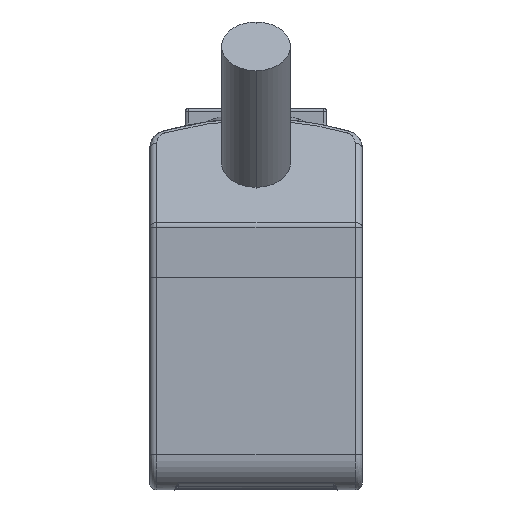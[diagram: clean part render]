
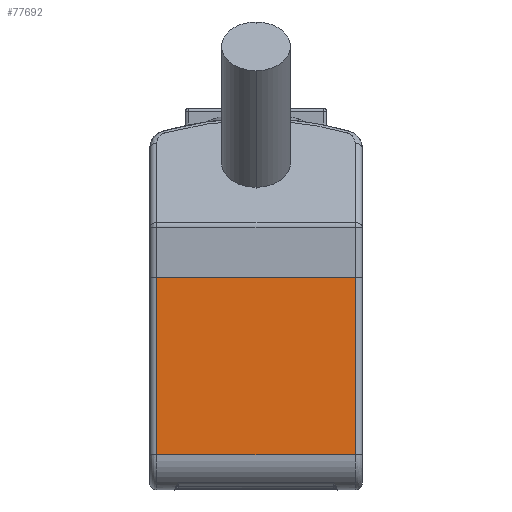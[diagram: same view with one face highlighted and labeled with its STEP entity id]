
A CAD part, left-side view. The second image highlights one B-rep face of the part: STEP entity #77692.
In plain terms, the highlighted planar face has unit normal (-1, 0, 0) as drawn and (0, 1, 0) by its records, which use the part's own axes.
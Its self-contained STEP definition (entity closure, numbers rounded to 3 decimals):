
#3837 = LINE ( 'NONE', #78246, #47231 ) ;
#5856 = EDGE_CURVE ( 'NONE', #18219, #50644, #66671, .T. ) ;
#8248 = CARTESIAN_POINT ( 'NONE',  ( -8.5, 15.75, 5.6 ) ) ;
#8668 = DIRECTION ( 'NONE',  ( 0., -1., 0. ) ) ;
#9359 = CARTESIAN_POINT ( 'NONE',  ( 1.5, 15.75, 5.6 ) ) ;
#9948 = DIRECTION ( 'NONE',  ( 0., 0., -1. ) ) ;
#11045 = LINE ( 'NONE', #38615, #25959 ) ;
#12868 = CARTESIAN_POINT ( 'NONE',  ( 1.5, 15.75, -5.6 ) ) ;
#14071 = ORIENTED_EDGE ( 'NONE', *, *, #5856, .T. ) ;
#18219 = VERTEX_POINT ( 'NONE', #60471 ) ;
#23106 = FACE_OUTER_BOUND ( 'NONE', #80226, .T. ) ;
#25959 = VECTOR ( 'NONE', #58736, 1000. ) ;
#26848 = DIRECTION ( 'NONE',  ( 1., 0., 0. ) ) ;
#31298 = CARTESIAN_POINT ( 'NONE',  ( -8.5, 15.75, 0. ) ) ;
#32584 = LINE ( 'NONE', #31298, #83367 ) ;
#38295 = DIRECTION ( 'NONE',  ( 0., 0., 1. ) ) ;
#38615 = CARTESIAN_POINT ( 'NONE',  ( 1.5, 15.75, 0. ) ) ;
#41940 = PLANE ( 'NONE',  #84258 ) ;
#46112 = CARTESIAN_POINT ( 'NONE',  ( -3.5, 15.75, 5.6 ) ) ;
#47231 = VECTOR ( 'NONE', #57667, 1000. ) ;
#50644 = VERTEX_POINT ( 'NONE', #9359 ) ;
#53621 = ORIENTED_EDGE ( 'NONE', *, *, #54728, .T. ) ;
#53849 = EDGE_CURVE ( 'NONE', #50644, #67232, #11045, .T. ) ;
#54728 = EDGE_CURVE ( 'NONE', #69022, #18219, #32584, .T. ) ;
#57667 = DIRECTION ( 'NONE',  ( -1., 0., 0. ) ) ;
#58736 = DIRECTION ( 'NONE',  ( 0., 0., -1. ) ) ;
#60471 = CARTESIAN_POINT ( 'NONE',  ( -8.5, 15.75, 5.6 ) ) ;
#63303 = VECTOR ( 'NONE', #26848, 1000. ) ;
#63357 = EDGE_CURVE ( 'NONE', #67232, #69022, #3837, .T. ) ;
#66671 = LINE ( 'NONE', #46112, #63303 ) ;
#67232 = VERTEX_POINT ( 'NONE', #12868 ) ;
#69022 = VERTEX_POINT ( 'NONE', #81885 ) ;
#77154 = ORIENTED_EDGE ( 'NONE', *, *, #53849, .T. ) ;
#77692 = ADVANCED_FACE ( 'NONE', ( #23106 ), #41940, .F. ) ;
#78246 = CARTESIAN_POINT ( 'NONE',  ( -3.5, 15.75, -5.6 ) ) ;
#79173 = ORIENTED_EDGE ( 'NONE', *, *, #63357, .T. ) ;
#80226 = EDGE_LOOP ( 'NONE', ( #53621, #14071, #77154, #79173 ) ) ;
#81885 = CARTESIAN_POINT ( 'NONE',  ( -8.5, 15.75, -5.6 ) ) ;
#83367 = VECTOR ( 'NONE', #38295, 1000. ) ;
#84258 = AXIS2_PLACEMENT_3D ( 'NONE', #8248, #8668, #9948 ) ;
